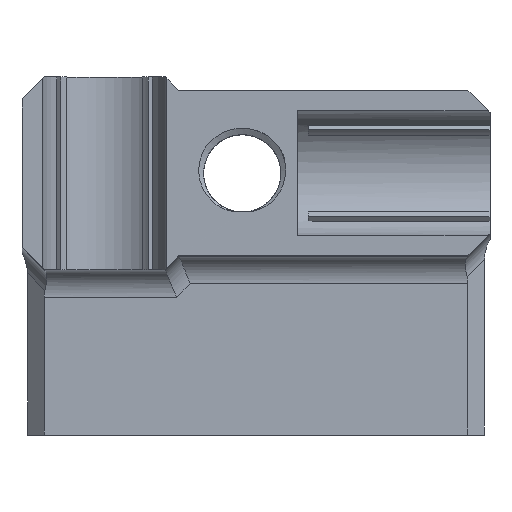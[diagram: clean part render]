
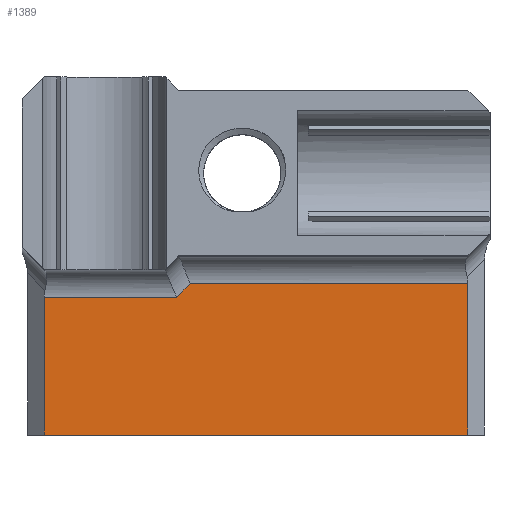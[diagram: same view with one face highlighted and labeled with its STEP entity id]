
A CAD part, top view. The second image highlights one B-rep face of the part: STEP entity #1389.
In plain terms, the highlighted planar face has unit normal (0, 0, 1).
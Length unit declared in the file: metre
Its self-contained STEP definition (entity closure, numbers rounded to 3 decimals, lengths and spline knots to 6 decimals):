
#54=PLANE('',#1509);
#187=LINE('',#6198,#295);
#188=LINE('',#6201,#296);
#189=LINE('',#6203,#297);
#190=LINE('',#6205,#298);
#191=LINE('',#6207,#299);
#192=LINE('',#6209,#300);
#295=VECTOR('',#1817,1.);
#296=VECTOR('',#1818,1.);
#297=VECTOR('',#1819,1.);
#298=VECTOR('',#1820,1.);
#299=VECTOR('',#1821,1.);
#300=VECTOR('',#1822,1.);
#652=ORIENTED_EDGE('',*,*,#924,.T.);
#653=ORIENTED_EDGE('',*,*,#925,.T.);
#654=ORIENTED_EDGE('',*,*,#926,.T.);
#655=ORIENTED_EDGE('',*,*,#927,.F.);
#656=ORIENTED_EDGE('',*,*,#928,.T.);
#657=ORIENTED_EDGE('',*,*,#929,.T.);
#924=EDGE_CURVE('',#1079,#1080,#187,.T.);
#925=EDGE_CURVE('',#1080,#1081,#188,.F.);
#926=EDGE_CURVE('',#1081,#1082,#189,.T.);
#927=EDGE_CURVE('',#1083,#1082,#190,.T.);
#928=EDGE_CURVE('',#1083,#1084,#191,.T.);
#929=EDGE_CURVE('',#1084,#1079,#192,.T.);
#1079=VERTEX_POINT('',#6199);
#1080=VERTEX_POINT('',#6200);
#1081=VERTEX_POINT('',#6202);
#1082=VERTEX_POINT('',#6204);
#1083=VERTEX_POINT('',#6206);
#1084=VERTEX_POINT('',#6208);
#1206=EDGE_LOOP('',(#652,#653,#654,#655,#656,#657));
#1279=FACE_BOUND('',#1206,.T.);
#1389=ADVANCED_FACE('',(#1279),#54,.F.);
#1509=AXIS2_PLACEMENT_3D('',#6197,#1815,#1816);
#1815=DIRECTION('',(0.,0.,-1.));
#1816=DIRECTION('',(0.,1.,0.));
#1817=DIRECTION('',(-0.707,-0.707,0.));
#1818=DIRECTION('',(1.,0.,0.));
#1819=DIRECTION('',(0.,-1.,0.));
#1820=DIRECTION('',(-1.,0.,0.));
#1821=DIRECTION('',(0.,1.,0.));
#1822=DIRECTION('',(-1.,0.,0.));
#6197=CARTESIAN_POINT('',(0.057152,-0.039688,0.00381));
#6198=CARTESIAN_POINT('',(0.015445,0.00202,0.00381));
#6199=CARTESIAN_POINT('',(-0.011975,-0.0254,0.00381));
#6200=CARTESIAN_POINT('',(-0.01515,-0.028575,0.00381));
#6201=CARTESIAN_POINT('',(0.057152,-0.028575,0.00381));
#6202=CARTESIAN_POINT('',(-0.04572,-0.028575,0.00381));
#6203=CARTESIAN_POINT('',(-0.04572,-0.039688,0.00381));
#6204=CARTESIAN_POINT('',(-0.04572,-0.060325,0.00381));
#6205=CARTESIAN_POINT('',(0.057152,-0.060325,0.00381));
#6206=CARTESIAN_POINT('',(0.05207,-0.060325,0.00381));
#6207=CARTESIAN_POINT('',(0.05207,-0.01905,0.00381));
#6208=CARTESIAN_POINT('',(0.05207,-0.0254,0.00381));
#6209=CARTESIAN_POINT('',(-0.014605,-0.0254,0.00381));
